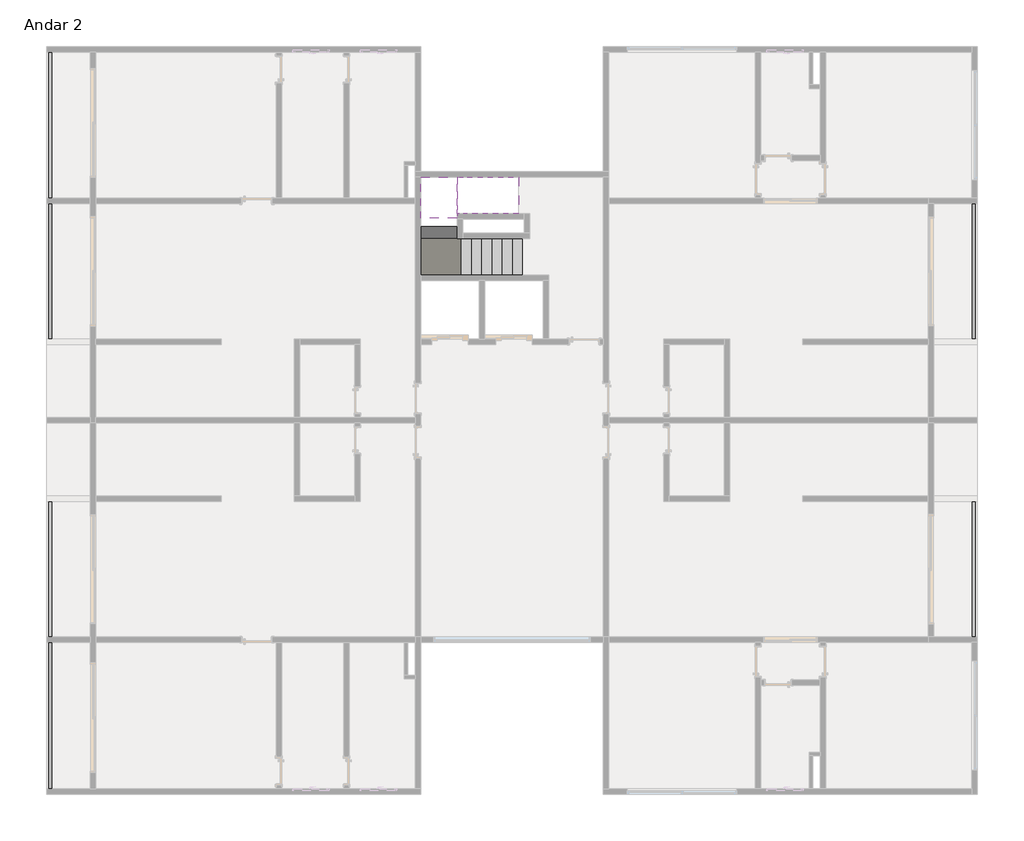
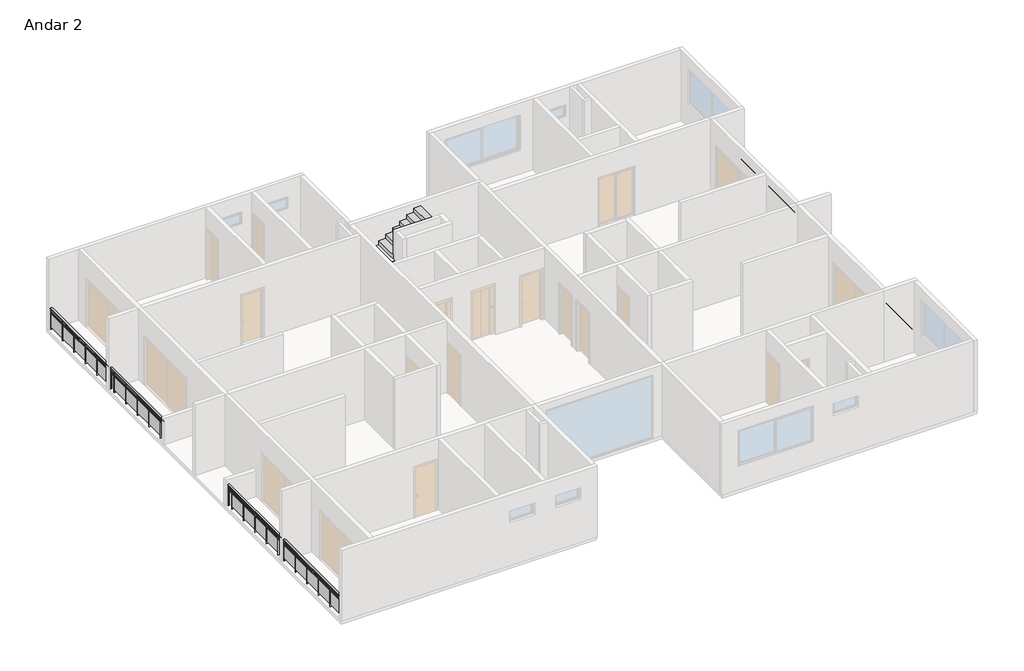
# One storey, part 3 of 3: 6 railings, 3 stair flights, 2 slabs.
"""IFC4 building model written with IfcOpenShell, lengths in millimetres."""

import ifcopenshell
import ifcopenshell.guid

model = None  # the IFC model being written
_history = None  # IfcOwnerHistory: only IFC2X3 demands one
_inside = {}  # id of a spatial element -> (the spatial element, [elements in it])
_under = {}  # id of a project, library or spatial element -> (it, [spatial elements below it])
_declared = {}  # id of a project -> (the project, [libraries it declares])
_typed = {}  # id of a type object -> (the type object, [elements of that type])
_made_of = {}  # id of a material, layer set ... -> (it, [elements and type objects made of it])


def new_model(schema):
    """Start an empty IFC model of exactly this schema.

    Asked for "IFC4X3", IfcOpenShell would pick the latest addendum, in which some entities
    have other attributes; the version numbers below select the first issue.
    IFC2X3 requires an IfcOwnerHistory on every rooted entity: one is made here for all.
    """
    global model, _history
    if schema == "IFC4X3":
        model = ifcopenshell.file(schema_version=(4, 3, 0, 0))
    else:
        model = ifcopenshell.file(schema=schema)
    _inside.clear()
    _under.clear()
    _declared.clear()
    _typed.clear()
    _made_of.clear()
    _history = None
    if model.schema == "IFC2X3":
        org = make("IfcOrganization", Name="unknown")
        user = make(
            "IfcPersonAndOrganization",
            ThePerson=make("IfcPerson", FamilyName="unknown"),
            TheOrganization=org,
        )
        app = make(
            "IfcApplication",
            ApplicationDeveloper=org,
            Version="unknown",
            ApplicationFullName="unknown",
            ApplicationIdentifier="unknown",
        )
        _history = make(
            "IfcOwnerHistory",
            OwningUser=user,
            OwningApplication=app,
            ChangeAction="ADDED",
            CreationDate=0,
        )
    return model


def make(cls, **values):
    """One entity of the class cls with the attributes given. An attribute that is None is left unset."""
    return model.create_entity(
        cls, **{name: value for name, value in values.items() if value is not None}
    )


def rooted(cls, **values):
    """An entity with a GlobalId (a new one), such as an element, a storey or a relation."""
    return make(cls, GlobalId=ifcopenshell.guid.new(), OwnerHistory=_history, **values)


def si_unit(unit_type, name, prefix=None):
    """IfcSIUnit, for example si_unit("LENGTHUNIT", "METRE", prefix="MILLI")."""
    return make("IfcSIUnit", UnitType=unit_type, Prefix=prefix, Name=name)


def assignment(units):
    """IfcUnitAssignment: the units of a project."""
    return None if units is None else make("IfcUnitAssignment", Units=units)


def point(xyz):
    """IfcCartesianPoint."""
    return None if xyz is None else make("IfcCartesianPoint", Coordinates=xyz)


def direction(xyz):
    """IfcDirection."""
    return None if xyz is None else make("IfcDirection", DirectionRatios=xyz)


def frame(location, z_axis=None, x_axis=None):
    """IfcAxis2Placement3D, a coordinate frame: its origin and axes. An axis left out is left unset."""
    return make(
        "IfcAxis2Placement3D",
        Location=point(location),
        Axis=direction(z_axis),
        RefDirection=direction(x_axis),
    )


def origin():
    """The frame at (0, 0, 0) with its axes left unset."""
    return frame((0.0, 0.0, 0.0))


def place(relative_to, where):
    """IfcLocalPlacement: puts the frame where relative to a parent placement (None: the world)."""
    return make(
        "IfcLocalPlacement", PlacementRelTo=relative_to, RelativePlacement=where
    )


def context(
    kind, dimensions, precision=None, world=None, true_north=None, identifier=None
):
    """IfcGeometricRepresentationContext, for example the 3D "Model" context."""
    return make(
        "IfcGeometricRepresentationContext",
        ContextIdentifier=identifier,
        ContextType=kind,
        CoordinateSpaceDimension=dimensions,
        Precision=precision,
        WorldCoordinateSystem=world,
        TrueNorth=true_north,
    )


def project(units=None, contexts=None):
    """IfcProject with its units and contexts."""
    return rooted(
        "IfcProject",
        Name="project",
        RepresentationContexts=contexts,
        UnitsInContext=assignment(units),
    )


def spatial(cls, under=None, at=None, **own):
    """A site, building, storey or space (cls), placed at a placement, below another one or the project."""
    s = rooted(cls, ObjectPlacement=at, **own)
    if under is not None:
        _under.setdefault(under.id(), (under, []))[1].append(s)
    return s


def polyline(points):
    """IfcPolyline through the points."""
    return make("IfcPolyline", Points=[point(p) for p in points])


def ellipse_curve(where, semi_axis1, semi_axis2):
    """IfcEllipse in the frame where."""
    return make(
        "IfcEllipse", Position=where, SemiAxis1=semi_axis1, SemiAxis2=semi_axis2
    )


def trimmed(basis, trim1, trim2, sense, master):
    """IfcTrimmedCurve: the piece of a basis curve between two trims."""
    return make(
        "IfcTrimmedCurve",
        BasisCurve=basis,
        Trim1=trim1,
        Trim2=trim2,
        SenseAgreement=sense,
        MasterRepresentation=master,
    )


def outline(outer, holes=None, kind="AREA"):
    """IfcArbitraryClosedProfileDef: a profile drawn as a closed curve; with holes, ...WithVoids."""
    if holes is None:
        return make("IfcArbitraryClosedProfileDef", ProfileType=kind, OuterCurve=outer)
    return make(
        "IfcArbitraryProfileDefWithVoids",
        ProfileType=kind,
        OuterCurve=outer,
        InnerCurves=holes,
    )


def extrude(swept, where, along, depth):
    """IfcExtrudedAreaSolid: the profile swept, set in the frame where, extruded along a direction by depth."""
    return make(
        "IfcExtrudedAreaSolid",
        SweptArea=swept,
        Position=where,
        ExtrudedDirection=direction(along),
        Depth=depth,
    )


def faces_of(points, faces, orient=None, outer=None):
    """IfcFace entities. A face is a list of loops; a loop is a list of indices into points, from 0.

    orient and outer hold one flag for each loop. By default every Orientation is true, the
    first loop of a face is its IfcFaceOuterBound and the others are IfcFaceBound.
    """
    made = []
    for i, loops in enumerate(faces):
        bounds = []
        for j, loop in enumerate(loops):
            is_outer = j == 0 if outer is None else outer[i][j]
            bounds.append(
                make(
                    "IfcFaceOuterBound" if is_outer else "IfcFaceBound",
                    Bound=make("IfcPolyLoop", Polygon=[points[k] for k in loop]),
                    Orientation=True if orient is None else orient[i][j],
                )
            )
        made.append(make("IfcFace", Bounds=bounds))
    return made


def faceted_brep(points, faces, orient=None, outer=None, voids=None):
    """IfcFacetedBrep: a solid bounded by flat faces; with voids (closed shells), ...WithVoids."""
    shared = [point(p) for p in points]
    hull = make("IfcClosedShell", CfsFaces=faces_of(shared, faces, orient, outer))
    if voids is None:
        return make("IfcFacetedBrep", Outer=hull)
    return make(
        "IfcFacetedBrepWithVoids",
        Outer=hull,
        Voids=[
            make(cls, CfsFaces=faces_of(shared, fs, o, b)) for cls, fs, o, b in voids
        ],
    )


def shape(context_of_items, identifier, shape_type, items):
    """IfcShapeRepresentation: the items that make up one representation, for example the "Body"."""
    return make(
        "IfcShapeRepresentation",
        ContextOfItems=context_of_items,
        RepresentationIdentifier=identifier,
        RepresentationType=shape_type,
        Items=items,
    )


def made_of(thing, what):
    """Note that an element or type object is made of a material, layer set ...; save() writes the relation."""
    if what is not None:
        _made_of.setdefault(what.id(), (what, []))[1].append(thing)
    return thing


def element(
    cls,
    number,
    at=None,
    inside=None,
    cuts=None,
    type_object=None,
    material=None,
    context=None,
    identifier="Body",
    shape_type=None,
    held_by="IfcProductDefinitionShape",
    body=None,
    shapes=None,
    **own,
):
    """One element of the class cls, such as IfcWall. Its Tag is "e" and its number.

    at: its placement. inside: the storey or other place that contains it. cuts: it is an
    opening in that element (IfcRelVoidsElement). A single representation is given by context,
    identifier, shape_type and body (its items); several are given by shapes. held_by: the class
    of the entity that holds the representations. save() writes the other relations.
    """
    e = rooted(cls, Tag="e%d" % number, ObjectPlacement=at, **own)
    if body is not None:
        shapes = [shape(context, identifier, shape_type, body)]
    if shapes is not None:
        e.Representation = make(held_by, Representations=shapes)
    if inside is not None:
        _inside.setdefault(inside.id(), (inside, []))[1].append(e)
    if cuts is not None:
        rooted(
            "IfcRelVoidsElement", RelatingBuildingElement=cuts, RelatedOpeningElement=e
        )
    if type_object is not None:
        _typed.setdefault(type_object.id(), (type_object, []))[1].append(e)
    return made_of(e, material)


def aggregate(whole, parts):
    """IfcRelAggregates: a whole, such as a stair, and the parts it consists of."""
    return rooted("IfcRelAggregates", RelatingObject=whole, RelatedObjects=parts)


def save(model, path):
    """Write the relations noted so far, then the file.

    IfcRelAggregates (storeys below a building ...), IfcRelContainedInSpatialStructure (elements
    in a storey), IfcRelDefinesByType, IfcRelAssociatesMaterial and IfcRelDeclares: one each for
    every whole, place, type object, material and project.
    """
    for whole, parts in _under.values():
        aggregate(whole, parts)
    for where, things in _inside.values():
        rooted(
            "IfcRelContainedInSpatialStructure",
            RelatedElements=things,
            RelatingStructure=where,
        )
    for kind, things in _typed.values():
        rooted("IfcRelDefinesByType", RelatedObjects=things, RelatingType=kind)
    for what, things in _made_of.values():
        rooted("IfcRelAssociatesMaterial", RelatedObjects=things, RelatingMaterial=what)
    for by, libraries in _declared.values():
        rooted("IfcRelDeclares", RelatingContext=by, RelatedDefinitions=libraries)
    model.write(path)


def plane_surface(at):
    """IfcPlane: the flat surface through the origin of the frame at, square to its z axis."""
    return make("IfcPlane", Position=at)


def extruded_surface(curve, direction_of_extrusion, depth):
    """IfcSurfaceOfLinearExtrusion: the curve pushed along a direction by depth."""
    return make(
        "IfcSurfaceOfLinearExtrusion",
        SweptCurve=make("IfcArbitraryOpenProfileDef", ProfileType="CURVE", Curve=curve),
        ExtrudedDirection=direction(direction_of_extrusion),
        Depth=depth,
    )


def advanced_brep(points, edges, surfaces, faces):
    """IfcAdvancedBrep: a solid bounded by faces that lie on surfaces and meet in shared edges.

    An edge is (start, end): straight between two places in points (the first is 0);
    or (start, end, curve); or (start, end, curve, False) where it runs against its curve.
    A face is (place in surfaces, loops), or (place, loops, False) where it looks against
    its surface's normal. A loop lists edges by number (the first is 1), with a minus sign
    where the edge is run from its end to its start. The first loop is the outer one.
    """
    corners = [point(p) for p in points]
    vertices = [make("IfcVertexPoint", VertexGeometry=c) for c in corners]
    made = []
    for start, end, *more in edges:
        made.append(
            make(
                "IfcEdgeCurve",
                EdgeStart=vertices[start],
                EdgeEnd=vertices[end],
                EdgeGeometry=more[0] if more else make("IfcPolyline", Points=[corners[start], corners[end]]),
                SameSense=more[1] if len(more) > 1 else True,
            )
        )
    hull = []
    for where, loops, *sense in faces:
        bounds = []
        for j, loop in enumerate(loops):
            ring = [make("IfcOrientedEdge", EdgeElement=made[abs(k) - 1], Orientation=k > 0) for k in loop]
            bounds.append(
                make(
                    "IfcFaceOuterBound" if j == 0 else "IfcFaceBound",
                    Bound=make("IfcEdgeLoop", EdgeList=ring),
                    Orientation=True,
                )
            )
        hull.append(make("IfcAdvancedFace", Bounds=bounds, FaceSurface=surfaces[where], SameSense=sense[0] if sense else True))
    return make("IfcAdvancedBrep", Outer=make("IfcClosedShell", CfsFaces=hull))


model = new_model("IFC4")

# Units and contexts
model_context = context("Model", 3, world=origin())
ifc_project = project(units=[si_unit("LENGTHUNIT", "METRE", prefix="MILLI")], contexts=[model_context])

# Site, building, storey
site = spatial("IfcSite", under=ifc_project)
building = spatial("IfcBuilding", under=site)
storey = spatial("IfcBuildingStorey", under=building, Name="Andar 2", Elevation=6150.0)

# Railings
placement = place(None, origin())
element("IfcRailing", 1, ObjectType="Painel de vidro - Preenchimento inferior", at=placement, inside=storey, context=model_context, shape_type="SolidModel", body=[
    advanced_brep(
    [(6139.3907652, 18425.0, 7050.0), (6059.3907652, 18425.0, 7050.0), (6139.3907652, 14725.0, 7050.0), (6059.3907652, 14725.0, 7050.0)],
    [
        (0, 1, ellipse_curve(frame((6099.3907652, 18425.0, 7050.0), z_axis=(0.0, 1.0, 0.0), x_axis=(-1.0, 0.0, 0.0)), 40.0, 30.0)),
        (1, 0, ellipse_curve(frame((6099.3907652, 18425.0, 7050.0), z_axis=(0.0, 1.0, 0.0), x_axis=(-1.0, 0.0, 0.0)), 40.0, 30.0)),
        (2, 3, ellipse_curve(frame((6099.3907652, 14725.0, 7050.0), z_axis=(0.0, -1.0, 0.0), x_axis=(-1.0, 0.0, 0.0)), 40.0, 30.0)),
        (3, 2, ellipse_curve(frame((6099.3907652, 14725.0, 7050.0), z_axis=(0.0, -1.0, 0.0), x_axis=(-1.0, 0.0, 0.0)), 40.0, 30.0)),
        (0, 2),
        (3, 1),
    ],
    [
        plane_surface(frame((6099.3907652, 18425.0, 7050.0), z_axis=(0.0, 1.0, 0.0), x_axis=(0.0, 0.0, -1.0))),
        plane_surface(frame((6099.3907652, 14725.0, 7050.0), z_axis=(0.0, -1.0, 0.0), x_axis=(0.0, 0.0, -1.0))),
        extruded_surface(trimmed(ellipse_curve(frame((6099.3907652, 14725.0, 7050.0), z_axis=(0.0, 1.0, 0.0), x_axis=(-1.0, 0.0, 0.0)), 40.0, 30.0), [point((6139.3907652, 14725.0, 7050.0))], [point((6059.3907652, 14725.0, 7050.0))], True, "CARTESIAN"), (0.0, 3700.0, 0.0), 3700.0),
        extruded_surface(trimmed(ellipse_curve(frame((6099.3907652, 14725.0, 7050.0), z_axis=(0.0, 1.0, 0.0), x_axis=(-1.0, 0.0, 0.0)), 40.0, 30.0), [point((6059.3907652, 14725.0, 7050.0))], [point((6139.3907652, 14725.0, 7050.0))], True, "CARTESIAN"), (0.0, 3700.0, 0.0), 3700.0),
    ],
    [
        (0, [[1, 2]]),
        (1, [[3, 4]]),
        (2, [[-1, 5, -4, 6]]),
        (3, [[-2, -6, -3, -5]]),
    ],
),
    extrude(outline(polyline([(6090.0, 18425.0), (6110.0, 18425.0), (6110.0, 14725.0), (6090.0, 14725.0), (6090.0, 18425.0)])), frame((0.0, 0.0, 6930.0), z_axis=(0.0, 0.0, 1.0), x_axis=(1.0, 0.0, 0.0)), (0.0, 0.0, 1.0), 20.0),
    extrude(outline(polyline([(6090.0, 18425.0), (6110.0, 18425.0), (6110.0, 14725.0), (6090.0, 14725.0), (6090.0, 18425.0)])), frame((0.0, 0.0, 6830.0), z_axis=(0.0, 0.0, 1.0), x_axis=(1.0, 0.0, 0.0)), (0.0, 0.0, 1.0), 20.0),
    extrude(outline(polyline([(6125.0, 14981.0), (6125.0, 14969.0), (6075.0, 14969.0), (6075.0, 14981.0), (6125.0, 14981.0)])), frame((0.0, 0.0, 6150.0), z_axis=(0.0, 0.0, 1.0), x_axis=(1.0, 0.0, 0.0)), (0.0, 0.0, 1.0), 869.8465326),
    extrude(outline(polyline([(6098.2751899, 15775.0), (6098.2751899, 14975.0), (6093.2751899, 14975.0), (6093.2751899, 15775.0), (6098.2751899, 15775.0)])), frame((0.0, 0.0, 6250.0), z_axis=(0.0, 0.0, 1.0), x_axis=(1.0, 0.0, 0.0)), (0.0, 0.0, 1.0), 580.0),
    extrude(outline(polyline([(6125.0, 15781.0), (6125.0, 15769.0), (6075.0, 15769.0), (6075.0, 15781.0), (6125.0, 15781.0)])), frame((0.0, 0.0, 6150.0), z_axis=(0.0, 0.0, 1.0), x_axis=(1.0, 0.0, 0.0)), (0.0, 0.0, 1.0), 869.8465326),
    extrude(outline(polyline([(6098.2751899, 16575.0), (6098.2751899, 15775.0), (6093.2751899, 15775.0), (6093.2751899, 16575.0), (6098.2751899, 16575.0)])), frame((0.0, 0.0, 6250.0), z_axis=(0.0, 0.0, 1.0), x_axis=(1.0, 0.0, 0.0)), (0.0, 0.0, 1.0), 580.0),
    extrude(outline(polyline([(6125.0, 16581.0), (6125.0, 16569.0), (6075.0, 16569.0), (6075.0, 16581.0), (6125.0, 16581.0)])), frame((0.0, 0.0, 6150.0), z_axis=(0.0, 0.0, 1.0), x_axis=(1.0, 0.0, 0.0)), (0.0, 0.0, 1.0), 869.8465326),
    extrude(outline(polyline([(6098.2751899, 17375.0), (6098.2751899, 16575.0), (6093.2751899, 16575.0), (6093.2751899, 17375.0), (6098.2751899, 17375.0)])), frame((0.0, 0.0, 6250.0), z_axis=(0.0, 0.0, 1.0), x_axis=(1.0, 0.0, 0.0)), (0.0, 0.0, 1.0), 580.0),
    extrude(outline(polyline([(6125.0, 17381.0), (6125.0, 17369.0), (6075.0, 17369.0), (6075.0, 17381.0), (6125.0, 17381.0)])), frame((0.0, 0.0, 6150.0), z_axis=(0.0, 0.0, 1.0), x_axis=(1.0, 0.0, 0.0)), (0.0, 0.0, 1.0), 869.8465326),
    extrude(outline(polyline([(6098.2751899, 18175.0), (6098.2751899, 17375.0), (6093.2751899, 17375.0), (6093.2751899, 18175.0), (6098.2751899, 18175.0)])), frame((0.0, 0.0, 6250.0), z_axis=(0.0, 0.0, 1.0), x_axis=(1.0, 0.0, 0.0)), (0.0, 0.0, 1.0), 580.0),
    extrude(outline(polyline([(6125.0, 18181.0), (6125.0, 18169.0), (6075.0, 18169.0), (6075.0, 18181.0), (6125.0, 18181.0)])), frame((0.0, 0.0, 6150.0), z_axis=(0.0, 0.0, 1.0), x_axis=(1.0, 0.0, 0.0)), (0.0, 0.0, 1.0), 869.8465326),
    extrude(outline(polyline([(6125.0, 14733.0), (6125.0, 14721.0), (6075.0, 14721.0), (6075.0, 14733.0), (6125.0, 14733.0)])), frame((0.0, 0.0, 6150.0), z_axis=(0.0, 0.0, 1.0), x_axis=(1.0, 0.0, 0.0)), (0.0, 0.0, 1.0), 869.8465326),
    extrude(outline(polyline([(6125.0, 18429.0), (6125.0, 18417.0), (6075.0, 18417.0), (6075.0, 18429.0), (6125.0, 18429.0)])), frame((0.0, 0.0, 6150.0), z_axis=(0.0, 0.0, 1.0), x_axis=(1.0, 0.0, 0.0)), (0.0, 0.0, 1.0), 869.8465326),
])
element("IfcRailing", 2, ObjectType="Painel de vidro - Preenchimento inferior", at=placement, inside=storey, context=model_context, shape_type="SolidModel", body=[
    advanced_brep(
    [(6059.3907652, 18575.0, 7050.0), (6139.3907652, 18575.0, 7050.0), (6059.3907652, 22575.0, 7050.0), (6139.3907652, 22575.0, 7050.0)],
    [
        (0, 1, ellipse_curve(frame((6099.3907652, 18575.0, 7050.0), z_axis=(0.0, -1.0, 0.0), x_axis=(1.0, 0.0, 0.0)), 40.0, 30.0)),
        (1, 0, ellipse_curve(frame((6099.3907652, 18575.0, 7050.0), z_axis=(0.0, -1.0, 0.0), x_axis=(1.0, 0.0, 0.0)), 40.0, 30.0)),
        (2, 3, ellipse_curve(frame((6099.3907652, 22575.0, 7050.0), z_axis=(0.0, 1.0, 0.0), x_axis=(1.0, 0.0, 0.0)), 40.0, 30.0)),
        (3, 2, ellipse_curve(frame((6099.3907652, 22575.0, 7050.0), z_axis=(0.0, 1.0, 0.0), x_axis=(1.0, 0.0, 0.0)), 40.0, 30.0)),
        (0, 2),
        (3, 1),
    ],
    [
        plane_surface(frame((6099.3907652, 18575.0, 7050.0), z_axis=(0.0, -1.0, 0.0), x_axis=(0.0, 0.0, 1.0))),
        plane_surface(frame((6099.3907652, 22575.0, 7050.0), z_axis=(0.0, 1.0, 0.0), x_axis=(0.0, 0.0, 1.0))),
        extruded_surface(trimmed(ellipse_curve(frame((6099.3907652, 22575.0, 7050.0), z_axis=(0.0, -1.0, 0.0), x_axis=(1.0, 0.0, 0.0)), 40.0, 30.0), [point((6059.3907652, 22575.0, 7050.0))], [point((6139.3907652, 22575.0, 7050.0))], True, "CARTESIAN"), (0.0, -4000.0, 0.0), 4000.0),
        extruded_surface(trimmed(ellipse_curve(frame((6099.3907652, 22575.0, 7050.0), z_axis=(0.0, -1.0, 0.0), x_axis=(1.0, 0.0, 0.0)), 40.0, 30.0), [point((6139.3907652, 22575.0, 7050.0))], [point((6059.3907652, 22575.0, 7050.0))], True, "CARTESIAN"), (0.0, -4000.0, 0.0), 4000.0),
    ],
    [
        (0, [[1, 2]]),
        (1, [[3, 4]]),
        (2, [[-1, 5, -4, 6]]),
        (3, [[-2, -6, -3, -5]]),
    ],
),
    extrude(outline(polyline([(6110.0, 18575.0), (6090.0, 18575.0), (6090.0, 22575.0), (6110.0, 22575.0), (6110.0, 18575.0)])), frame((0.0, 0.0, 6930.0), z_axis=(0.0, 0.0, 1.0), x_axis=(1.0, 0.0, 0.0)), (0.0, 0.0, 1.0), 20.0),
    extrude(outline(polyline([(6110.0, 18575.0), (6090.0, 18575.0), (6090.0, 22575.0), (6110.0, 22575.0), (6110.0, 18575.0)])), frame((0.0, 0.0, 6830.0), z_axis=(0.0, 0.0, 1.0), x_axis=(1.0, 0.0, 0.0)), (0.0, 0.0, 1.0), 20.0),
    extrude(outline(polyline([(6098.2751899, 21775.0), (6093.2751899, 21775.0), (6093.2751899, 22575.0), (6098.2751899, 22575.0), (6098.2751899, 21775.0)])), frame((0.0, 0.0, 6250.0), z_axis=(0.0, 0.0, 1.0), x_axis=(1.0, 0.0, 0.0)), (0.0, 0.0, 1.0), 580.0),
    extrude(outline(polyline([(6125.0, 21769.0), (6075.0, 21769.0), (6075.0, 21781.0), (6125.0, 21781.0), (6125.0, 21769.0)])), frame((0.0, 0.0, 6150.0), z_axis=(0.0, 0.0, 1.0), x_axis=(1.0, 0.0, 0.0)), (0.0, 0.0, 1.0), 869.8465326),
    extrude(outline(polyline([(6098.2751899, 20975.0), (6093.2751899, 20975.0), (6093.2751899, 21775.0), (6098.2751899, 21775.0), (6098.2751899, 20975.0)])), frame((0.0, 0.0, 6250.0), z_axis=(0.0, 0.0, 1.0), x_axis=(1.0, 0.0, 0.0)), (0.0, 0.0, 1.0), 580.0),
    extrude(outline(polyline([(6125.0, 20969.0), (6075.0, 20969.0), (6075.0, 20981.0), (6125.0, 20981.0), (6125.0, 20969.0)])), frame((0.0, 0.0, 6150.0), z_axis=(0.0, 0.0, 1.0), x_axis=(1.0, 0.0, 0.0)), (0.0, 0.0, 1.0), 869.8465326),
    extrude(outline(polyline([(6098.2751899, 20175.0), (6093.2751899, 20175.0), (6093.2751899, 20975.0), (6098.2751899, 20975.0), (6098.2751899, 20175.0)])), frame((0.0, 0.0, 6250.0), z_axis=(0.0, 0.0, 1.0), x_axis=(1.0, 0.0, 0.0)), (0.0, 0.0, 1.0), 580.0),
    extrude(outline(polyline([(6125.0, 20169.0), (6075.0, 20169.0), (6075.0, 20181.0), (6125.0, 20181.0), (6125.0, 20169.0)])), frame((0.0, 0.0, 6150.0), z_axis=(0.0, 0.0, 1.0), x_axis=(1.0, 0.0, 0.0)), (0.0, 0.0, 1.0), 869.8465326),
    extrude(outline(polyline([(6098.2751899, 19375.0), (6093.2751899, 19375.0), (6093.2751899, 20175.0), (6098.2751899, 20175.0), (6098.2751899, 19375.0)])), frame((0.0, 0.0, 6250.0), z_axis=(0.0, 0.0, 1.0), x_axis=(1.0, 0.0, 0.0)), (0.0, 0.0, 1.0), 580.0),
    extrude(outline(polyline([(6125.0, 19369.0), (6075.0, 19369.0), (6075.0, 19381.0), (6125.0, 19381.0), (6125.0, 19369.0)])), frame((0.0, 0.0, 6150.0), z_axis=(0.0, 0.0, 1.0), x_axis=(1.0, 0.0, 0.0)), (0.0, 0.0, 1.0), 869.8465326),
    extrude(outline(polyline([(6098.2751899, 18575.0), (6093.2751899, 18575.0), (6093.2751899, 19375.0), (6098.2751899, 19375.0), (6098.2751899, 18575.0)])), frame((0.0, 0.0, 6250.0), z_axis=(0.0, 0.0, 1.0), x_axis=(1.0, 0.0, 0.0)), (0.0, 0.0, 1.0), 580.0),
    extrude(outline(polyline([(6125.0, 22567.0), (6075.0, 22567.0), (6075.0, 22579.0), (6125.0, 22579.0), (6125.0, 22567.0)])), frame((0.0, 0.0, 6150.0), z_axis=(0.0, 0.0, 1.0), x_axis=(1.0, 0.0, 0.0)), (0.0, 0.0, 1.0), 869.8465326),
    extrude(outline(polyline([(6125.0, 18571.0), (6075.0, 18571.0), (6075.0, 18583.0), (6125.0, 18583.0), (6125.0, 18571.0)])), frame((0.0, 0.0, 6150.0), z_axis=(0.0, 0.0, 1.0), x_axis=(1.0, 0.0, 0.0)), (0.0, 0.0, 1.0), 869.8465326),
])
element("IfcRailing", 3, ObjectType="Painel de vidro - Preenchimento inferior", at=placement, inside=storey, context=model_context, shape_type="SolidModel", body=[
    advanced_brep(
    [(6059.3907652, 6575.0, 7050.0), (6139.3907652, 6575.0, 7050.0), (6059.3907652, 10275.0, 7050.0), (6139.3907652, 10275.0, 7050.0)],
    [
        (0, 1, ellipse_curve(frame((6099.3907652, 6575.0, 7050.0), z_axis=(0.0, -1.0, 0.0), x_axis=(1.0, 0.0, 0.0)), 40.0, 30.0)),
        (1, 0, ellipse_curve(frame((6099.3907652, 6575.0, 7050.0), z_axis=(0.0, -1.0, 0.0), x_axis=(1.0, 0.0, 0.0)), 40.0, 30.0)),
        (2, 3, ellipse_curve(frame((6099.3907652, 10275.0, 7050.0), z_axis=(0.0, 1.0, 0.0), x_axis=(1.0, 0.0, 0.0)), 40.0, 30.0)),
        (3, 2, ellipse_curve(frame((6099.3907652, 10275.0, 7050.0), z_axis=(0.0, 1.0, 0.0), x_axis=(1.0, 0.0, 0.0)), 40.0, 30.0)),
        (0, 2),
        (3, 1),
    ],
    [
        plane_surface(frame((6099.3907652, 6575.0, 7050.0), z_axis=(0.0, -1.0, 0.0), x_axis=(0.0, 0.0, 1.0))),
        plane_surface(frame((6099.3907652, 10275.0, 7050.0), z_axis=(0.0, 1.0, 0.0), x_axis=(0.0, 0.0, 1.0))),
        extruded_surface(trimmed(ellipse_curve(frame((6099.3907652, 10275.0, 7050.0), z_axis=(0.0, -1.0, 0.0), x_axis=(1.0, 0.0, 0.0)), 40.0, 30.0), [point((6059.3907652, 10275.0, 7050.0))], [point((6139.3907652, 10275.0, 7050.0))], True, "CARTESIAN"), (0.0, -3700.0, 0.0), 3700.0),
        extruded_surface(trimmed(ellipse_curve(frame((6099.3907652, 10275.0, 7050.0), z_axis=(0.0, -1.0, 0.0), x_axis=(1.0, 0.0, 0.0)), 40.0, 30.0), [point((6139.3907652, 10275.0, 7050.0))], [point((6059.3907652, 10275.0, 7050.0))], True, "CARTESIAN"), (0.0, -3700.0, 0.0), 3700.0),
    ],
    [
        (0, [[1, 2]]),
        (1, [[3, 4]]),
        (2, [[-1, 5, -4, 6]]),
        (3, [[-2, -6, -3, -5]]),
    ],
),
    extrude(outline(polyline([(6110.0, 6575.0), (6090.0, 6575.0), (6090.0, 10275.0), (6110.0, 10275.0), (6110.0, 6575.0)])), frame((0.0, 0.0, 6930.0), z_axis=(0.0, 0.0, 1.0), x_axis=(1.0, 0.0, 0.0)), (0.0, 0.0, 1.0), 20.0),
    extrude(outline(polyline([(6110.0, 6575.0), (6090.0, 6575.0), (6090.0, 10275.0), (6110.0, 10275.0), (6110.0, 6575.0)])), frame((0.0, 0.0, 6830.0), z_axis=(0.0, 0.0, 1.0), x_axis=(1.0, 0.0, 0.0)), (0.0, 0.0, 1.0), 20.0),
    extrude(outline(polyline([(6125.0, 10019.0), (6075.0, 10019.0), (6075.0, 10031.0), (6125.0, 10031.0), (6125.0, 10019.0)])), frame((0.0, 0.0, 6150.0), z_axis=(0.0, 0.0, 1.0), x_axis=(1.0, 0.0, 0.0)), (0.0, 0.0, 1.0), 869.8465326),
    extrude(outline(polyline([(6098.2751899, 9225.0), (6093.2751899, 9225.0), (6093.2751899, 10025.0), (6098.2751899, 10025.0), (6098.2751899, 9225.0)])), frame((0.0, 0.0, 6250.0), z_axis=(0.0, 0.0, 1.0), x_axis=(1.0, 0.0, 0.0)), (0.0, 0.0, 1.0), 580.0),
    extrude(outline(polyline([(6125.0, 9219.0), (6075.0, 9219.0), (6075.0, 9231.0), (6125.0, 9231.0), (6125.0, 9219.0)])), frame((0.0, 0.0, 6150.0), z_axis=(0.0, 0.0, 1.0), x_axis=(1.0, 0.0, 0.0)), (0.0, 0.0, 1.0), 869.8465326),
    extrude(outline(polyline([(6098.2751899, 8425.0), (6093.2751899, 8425.0), (6093.2751899, 9225.0), (6098.2751899, 9225.0), (6098.2751899, 8425.0)])), frame((0.0, 0.0, 6250.0), z_axis=(0.0, 0.0, 1.0), x_axis=(1.0, 0.0, 0.0)), (0.0, 0.0, 1.0), 580.0),
    extrude(outline(polyline([(6125.0, 8419.0), (6075.0, 8419.0), (6075.0, 8431.0), (6125.0, 8431.0), (6125.0, 8419.0)])), frame((0.0, 0.0, 6150.0), z_axis=(0.0, 0.0, 1.0), x_axis=(1.0, 0.0, 0.0)), (0.0, 0.0, 1.0), 869.8465326),
    extrude(outline(polyline([(6098.2751899, 7625.0), (6093.2751899, 7625.0), (6093.2751899, 8425.0), (6098.2751899, 8425.0), (6098.2751899, 7625.0)])), frame((0.0, 0.0, 6250.0), z_axis=(0.0, 0.0, 1.0), x_axis=(1.0, 0.0, 0.0)), (0.0, 0.0, 1.0), 580.0),
    extrude(outline(polyline([(6125.0, 7619.0), (6075.0, 7619.0), (6075.0, 7631.0), (6125.0, 7631.0), (6125.0, 7619.0)])), frame((0.0, 0.0, 6150.0), z_axis=(0.0, 0.0, 1.0), x_axis=(1.0, 0.0, 0.0)), (0.0, 0.0, 1.0), 869.8465326),
    extrude(outline(polyline([(6098.2751899, 6825.0), (6093.2751899, 6825.0), (6093.2751899, 7625.0), (6098.2751899, 7625.0), (6098.2751899, 6825.0)])), frame((0.0, 0.0, 6250.0), z_axis=(0.0, 0.0, 1.0), x_axis=(1.0, 0.0, 0.0)), (0.0, 0.0, 1.0), 580.0),
    extrude(outline(polyline([(6125.0, 6819.0), (6075.0, 6819.0), (6075.0, 6831.0), (6125.0, 6831.0), (6125.0, 6819.0)])), frame((0.0, 0.0, 6150.0), z_axis=(0.0, 0.0, 1.0), x_axis=(1.0, 0.0, 0.0)), (0.0, 0.0, 1.0), 869.8465326),
    extrude(outline(polyline([(6125.0, 10267.0), (6075.0, 10267.0), (6075.0, 10279.0), (6125.0, 10279.0), (6125.0, 10267.0)])), frame((0.0, 0.0, 6150.0), z_axis=(0.0, 0.0, 1.0), x_axis=(1.0, 0.0, 0.0)), (0.0, 0.0, 1.0), 869.8465326),
    extrude(outline(polyline([(6125.0, 6571.0), (6075.0, 6571.0), (6075.0, 6583.0), (6125.0, 6583.0), (6125.0, 6571.0)])), frame((0.0, 0.0, 6150.0), z_axis=(0.0, 0.0, 1.0), x_axis=(1.0, 0.0, 0.0)), (0.0, 0.0, 1.0), 869.8465326),
])
element("IfcRailing", 4, ObjectType="Painel de vidro - Preenchimento inferior", at=placement, inside=storey, context=model_context, shape_type="SolidModel", body=[
    advanced_brep(
    [(6139.3907652, 6425.0, 7050.0), (6059.3907652, 6425.0, 7050.0), (6139.3907652, 2425.0, 7050.0), (6059.3907652, 2425.0, 7050.0)],
    [
        (0, 1, ellipse_curve(frame((6099.3907652, 6425.0, 7050.0), z_axis=(0.0, 1.0, 0.0), x_axis=(-1.0, 0.0, 0.0)), 40.0, 30.0)),
        (1, 0, ellipse_curve(frame((6099.3907652, 6425.0, 7050.0), z_axis=(0.0, 1.0, 0.0), x_axis=(-1.0, 0.0, 0.0)), 40.0, 30.0)),
        (2, 3, ellipse_curve(frame((6099.3907652, 2425.0, 7050.0), z_axis=(0.0, -1.0, 0.0), x_axis=(-1.0, 0.0, 0.0)), 40.0, 30.0)),
        (3, 2, ellipse_curve(frame((6099.3907652, 2425.0, 7050.0), z_axis=(0.0, -1.0, 0.0), x_axis=(-1.0, 0.0, 0.0)), 40.0, 30.0)),
        (0, 2),
        (3, 1),
    ],
    [
        plane_surface(frame((6099.3907652, 6425.0, 7050.0), z_axis=(0.0, 1.0, 0.0), x_axis=(0.0, 0.0, -1.0))),
        plane_surface(frame((6099.3907652, 2425.0, 7050.0), z_axis=(0.0, -1.0, 0.0), x_axis=(0.0, 0.0, -1.0))),
        extruded_surface(trimmed(ellipse_curve(frame((6099.3907652, 2425.0, 7050.0), z_axis=(0.0, 1.0, 0.0), x_axis=(-1.0, 0.0, 0.0)), 40.0, 30.0), [point((6139.3907652, 2425.0, 7050.0))], [point((6059.3907652, 2425.0, 7050.0))], True, "CARTESIAN"), (0.0, 4000.0, 0.0), 4000.0),
        extruded_surface(trimmed(ellipse_curve(frame((6099.3907652, 2425.0, 7050.0), z_axis=(0.0, 1.0, 0.0), x_axis=(-1.0, 0.0, 0.0)), 40.0, 30.0), [point((6059.3907652, 2425.0, 7050.0))], [point((6139.3907652, 2425.0, 7050.0))], True, "CARTESIAN"), (0.0, 4000.0, 0.0), 4000.0),
    ],
    [
        (0, [[1, 2]]),
        (1, [[3, 4]]),
        (2, [[-1, 5, -4, 6]]),
        (3, [[-2, -6, -3, -5]]),
    ],
),
    extrude(outline(polyline([(6090.0, 6425.0), (6110.0, 6425.0), (6110.0, 2425.0), (6090.0, 2425.0), (6090.0, 6425.0)])), frame((0.0, 0.0, 6930.0), z_axis=(0.0, 0.0, 1.0), x_axis=(1.0, 0.0, 0.0)), (0.0, 0.0, 1.0), 20.0),
    extrude(outline(polyline([(6090.0, 6425.0), (6110.0, 6425.0), (6110.0, 2425.0), (6090.0, 2425.0), (6090.0, 6425.0)])), frame((0.0, 0.0, 6830.0), z_axis=(0.0, 0.0, 1.0), x_axis=(1.0, 0.0, 0.0)), (0.0, 0.0, 1.0), 20.0),
    extrude(outline(polyline([(6098.2751899, 3225.0), (6098.2751899, 2425.0), (6093.2751899, 2425.0), (6093.2751899, 3225.0), (6098.2751899, 3225.0)])), frame((0.0, 0.0, 6250.0), z_axis=(0.0, 0.0, 1.0), x_axis=(1.0, 0.0, 0.0)), (0.0, 0.0, 1.0), 580.0),
    extrude(outline(polyline([(6125.0, 3231.0), (6125.0, 3219.0), (6075.0, 3219.0), (6075.0, 3231.0), (6125.0, 3231.0)])), frame((0.0, 0.0, 6150.0), z_axis=(0.0, 0.0, 1.0), x_axis=(1.0, 0.0, 0.0)), (0.0, 0.0, 1.0), 869.8465326),
    extrude(outline(polyline([(6098.2751899, 4025.0), (6098.2751899, 3225.0), (6093.2751899, 3225.0), (6093.2751899, 4025.0), (6098.2751899, 4025.0)])), frame((0.0, 0.0, 6250.0), z_axis=(0.0, 0.0, 1.0), x_axis=(1.0, 0.0, 0.0)), (0.0, 0.0, 1.0), 580.0),
    extrude(outline(polyline([(6125.0, 4031.0), (6125.0, 4019.0), (6075.0, 4019.0), (6075.0, 4031.0), (6125.0, 4031.0)])), frame((0.0, 0.0, 6150.0), z_axis=(0.0, 0.0, 1.0), x_axis=(1.0, 0.0, 0.0)), (0.0, 0.0, 1.0), 869.8465326),
    extrude(outline(polyline([(6098.2751899, 4825.0), (6098.2751899, 4025.0), (6093.2751899, 4025.0), (6093.2751899, 4825.0), (6098.2751899, 4825.0)])), frame((0.0, 0.0, 6250.0), z_axis=(0.0, 0.0, 1.0), x_axis=(1.0, 0.0, 0.0)), (0.0, 0.0, 1.0), 580.0),
    extrude(outline(polyline([(6125.0, 4831.0), (6125.0, 4819.0), (6075.0, 4819.0), (6075.0, 4831.0), (6125.0, 4831.0)])), frame((0.0, 0.0, 6150.0), z_axis=(0.0, 0.0, 1.0), x_axis=(1.0, 0.0, 0.0)), (0.0, 0.0, 1.0), 869.8465326),
    extrude(outline(polyline([(6098.2751899, 5625.0), (6098.2751899, 4825.0), (6093.2751899, 4825.0), (6093.2751899, 5625.0), (6098.2751899, 5625.0)])), frame((0.0, 0.0, 6250.0), z_axis=(0.0, 0.0, 1.0), x_axis=(1.0, 0.0, 0.0)), (0.0, 0.0, 1.0), 580.0),
    extrude(outline(polyline([(6125.0, 5631.0), (6125.0, 5619.0), (6075.0, 5619.0), (6075.0, 5631.0), (6125.0, 5631.0)])), frame((0.0, 0.0, 6150.0), z_axis=(0.0, 0.0, 1.0), x_axis=(1.0, 0.0, 0.0)), (0.0, 0.0, 1.0), 869.8465326),
    extrude(outline(polyline([(6098.2751899, 6425.0), (6098.2751899, 5625.0), (6093.2751899, 5625.0), (6093.2751899, 6425.0), (6098.2751899, 6425.0)])), frame((0.0, 0.0, 6250.0), z_axis=(0.0, 0.0, 1.0), x_axis=(1.0, 0.0, 0.0)), (0.0, 0.0, 1.0), 580.0),
    extrude(outline(polyline([(6125.0, 2433.0), (6125.0, 2421.0), (6075.0, 2421.0), (6075.0, 2433.0), (6125.0, 2433.0)])), frame((0.0, 0.0, 6150.0), z_axis=(0.0, 0.0, 1.0), x_axis=(1.0, 0.0, 0.0)), (0.0, 0.0, 1.0), 869.8465326),
    extrude(outline(polyline([(6125.0, 6429.0), (6125.0, 6417.0), (6075.0, 6417.0), (6075.0, 6429.0), (6125.0, 6429.0)])), frame((0.0, 0.0, 6150.0), z_axis=(0.0, 0.0, 1.0), x_axis=(1.0, 0.0, 0.0)), (0.0, 0.0, 1.0), 869.8465326),
])
element("IfcRailing", 5, ObjectType="Painel de vidro - Preenchimento inferior", at=placement, inside=storey, context=model_context, shape_type="SolidModel", body=[
    advanced_brep(
    [(31389.3907652, 18425.0, 7050.0), (31309.3907652, 18425.0, 7050.0), (31389.3907652, 14725.0, 7050.0), (31309.3907652, 14725.0, 7050.0)],
    [
        (0, 1, ellipse_curve(frame((31349.3907652, 18425.0, 7050.0), z_axis=(0.0, 1.0, 0.0), x_axis=(-1.0, 0.0, 0.0)), 40.0, 30.0)),
        (1, 0, ellipse_curve(frame((31349.3907652, 18425.0, 7050.0), z_axis=(0.0, 1.0, 0.0), x_axis=(-1.0, 0.0, 0.0)), 40.0, 30.0)),
        (2, 3, ellipse_curve(frame((31349.3907652, 14725.0, 7050.0), z_axis=(0.0, -1.0, 0.0), x_axis=(-1.0, 0.0, 0.0)), 40.0, 30.0)),
        (3, 2, ellipse_curve(frame((31349.3907652, 14725.0, 7050.0), z_axis=(0.0, -1.0, 0.0), x_axis=(-1.0, 0.0, 0.0)), 40.0, 30.0)),
        (0, 2),
        (3, 1),
    ],
    [
        plane_surface(frame((31349.3907652, 18425.0, 7050.0), z_axis=(0.0, 1.0, 0.0), x_axis=(0.0, 0.0, -1.0))),
        plane_surface(frame((31349.3907652, 14725.0, 7050.0), z_axis=(0.0, -1.0, 0.0), x_axis=(0.0, 0.0, -1.0))),
        extruded_surface(trimmed(ellipse_curve(frame((31349.3907652, 14725.0, 7050.0), z_axis=(0.0, 1.0, 0.0), x_axis=(-1.0, 0.0, 0.0)), 40.0, 30.0), [point((31389.3907652, 14725.0, 7050.0))], [point((31309.3907652, 14725.0, 7050.0))], True, "CARTESIAN"), (0.0, 3700.0, 0.0), 3700.0),
        extruded_surface(trimmed(ellipse_curve(frame((31349.3907652, 14725.0, 7050.0), z_axis=(0.0, 1.0, 0.0), x_axis=(-1.0, 0.0, 0.0)), 40.0, 30.0), [point((31309.3907652, 14725.0, 7050.0))], [point((31389.3907652, 14725.0, 7050.0))], True, "CARTESIAN"), (0.0, 3700.0, 0.0), 3700.0),
    ],
    [
        (0, [[1, 2]]),
        (1, [[3, 4]]),
        (2, [[-1, 5, -4, 6]]),
        (3, [[-2, -6, -3, -5]]),
    ],
),
    extrude(outline(polyline([(31340.0, 18425.0), (31360.0, 18425.0), (31360.0, 14725.0), (31340.0, 14725.0), (31340.0, 18425.0)])), frame((0.0, 0.0, 6930.0), z_axis=(0.0, 0.0, 1.0), x_axis=(1.0, 0.0, 0.0)), (0.0, 0.0, 1.0), 20.0),
    extrude(outline(polyline([(31340.0, 18425.0), (31360.0, 18425.0), (31360.0, 14725.0), (31340.0, 14725.0), (31340.0, 18425.0)])), frame((0.0, 0.0, 6830.0), z_axis=(0.0, 0.0, 1.0), x_axis=(1.0, 0.0, 0.0)), (0.0, 0.0, 1.0), 20.0),
    extrude(outline(polyline([(31375.0, 14981.0), (31375.0, 14969.0), (31325.0, 14969.0), (31325.0, 14981.0), (31375.0, 14981.0)])), frame((0.0, 0.0, 6150.0), z_axis=(0.0, 0.0, 1.0), x_axis=(1.0, 0.0, 0.0)), (0.0, 0.0, 1.0), 869.8465326),
    extrude(outline(polyline([(31348.2751899, 15775.0), (31348.2751899, 14975.0), (31343.2751899, 14975.0), (31343.2751899, 15775.0), (31348.2751899, 15775.0)])), frame((0.0, 0.0, 6250.0), z_axis=(0.0, 0.0, 1.0), x_axis=(1.0, 0.0, 0.0)), (0.0, 0.0, 1.0), 580.0),
    extrude(outline(polyline([(31375.0, 15781.0), (31375.0, 15769.0), (31325.0, 15769.0), (31325.0, 15781.0), (31375.0, 15781.0)])), frame((0.0, 0.0, 6150.0), z_axis=(0.0, 0.0, 1.0), x_axis=(1.0, 0.0, 0.0)), (0.0, 0.0, 1.0), 869.8465326),
    extrude(outline(polyline([(31348.2751899, 16575.0), (31348.2751899, 15775.0), (31343.2751899, 15775.0), (31343.2751899, 16575.0), (31348.2751899, 16575.0)])), frame((0.0, 0.0, 6250.0), z_axis=(0.0, 0.0, 1.0), x_axis=(1.0, 0.0, 0.0)), (0.0, 0.0, 1.0), 580.0),
    extrude(outline(polyline([(31375.0, 16581.0), (31375.0, 16569.0), (31325.0, 16569.0), (31325.0, 16581.0), (31375.0, 16581.0)])), frame((0.0, 0.0, 6150.0), z_axis=(0.0, 0.0, 1.0), x_axis=(1.0, 0.0, 0.0)), (0.0, 0.0, 1.0), 869.8465326),
    extrude(outline(polyline([(31348.2751899, 17375.0), (31348.2751899, 16575.0), (31343.2751899, 16575.0), (31343.2751899, 17375.0), (31348.2751899, 17375.0)])), frame((0.0, 0.0, 6250.0), z_axis=(0.0, 0.0, 1.0), x_axis=(1.0, 0.0, 0.0)), (0.0, 0.0, 1.0), 580.0),
    extrude(outline(polyline([(31375.0, 17381.0), (31375.0, 17369.0), (31325.0, 17369.0), (31325.0, 17381.0), (31375.0, 17381.0)])), frame((0.0, 0.0, 6150.0), z_axis=(0.0, 0.0, 1.0), x_axis=(1.0, 0.0, 0.0)), (0.0, 0.0, 1.0), 869.8465326),
    extrude(outline(polyline([(31348.2751899, 18175.0), (31348.2751899, 17375.0), (31343.2751899, 17375.0), (31343.2751899, 18175.0), (31348.2751899, 18175.0)])), frame((0.0, 0.0, 6250.0), z_axis=(0.0, 0.0, 1.0), x_axis=(1.0, 0.0, 0.0)), (0.0, 0.0, 1.0), 580.0),
    extrude(outline(polyline([(31375.0, 18181.0), (31375.0, 18169.0), (31325.0, 18169.0), (31325.0, 18181.0), (31375.0, 18181.0)])), frame((0.0, 0.0, 6150.0), z_axis=(0.0, 0.0, 1.0), x_axis=(1.0, 0.0, 0.0)), (0.0, 0.0, 1.0), 869.8465326),
    extrude(outline(polyline([(31375.0, 14733.0), (31375.0, 14721.0), (31325.0, 14721.0), (31325.0, 14733.0), (31375.0, 14733.0)])), frame((0.0, 0.0, 6150.0), z_axis=(0.0, 0.0, 1.0), x_axis=(1.0, 0.0, 0.0)), (0.0, 0.0, 1.0), 869.8465326),
    extrude(outline(polyline([(31375.0, 18429.0), (31375.0, 18417.0), (31325.0, 18417.0), (31325.0, 18429.0), (31375.0, 18429.0)])), frame((0.0, 0.0, 6150.0), z_axis=(0.0, 0.0, 1.0), x_axis=(1.0, 0.0, 0.0)), (0.0, 0.0, 1.0), 869.8465326),
])
element("IfcRailing", 6, ObjectType="Painel de vidro - Preenchimento inferior", at=placement, inside=storey, context=model_context, shape_type="SolidModel", body=[
    advanced_brep(
    [(31309.3907652, 6575.0, 7050.0), (31389.3907652, 6575.0, 7050.0), (31309.3907652, 10275.0, 7050.0), (31389.3907652, 10275.0, 7050.0)],
    [
        (0, 1, ellipse_curve(frame((31349.3907652, 6575.0, 7050.0), z_axis=(0.0, -1.0, 0.0), x_axis=(1.0, 0.0, 0.0)), 40.0, 30.0)),
        (1, 0, ellipse_curve(frame((31349.3907652, 6575.0, 7050.0), z_axis=(0.0, -1.0, 0.0), x_axis=(1.0, 0.0, 0.0)), 40.0, 30.0)),
        (2, 3, ellipse_curve(frame((31349.3907652, 10275.0, 7050.0), z_axis=(0.0, 1.0, 0.0), x_axis=(1.0, 0.0, 0.0)), 40.0, 30.0)),
        (3, 2, ellipse_curve(frame((31349.3907652, 10275.0, 7050.0), z_axis=(0.0, 1.0, 0.0), x_axis=(1.0, 0.0, 0.0)), 40.0, 30.0)),
        (0, 2),
        (3, 1),
    ],
    [
        plane_surface(frame((31349.3907652, 6575.0, 7050.0), z_axis=(0.0, -1.0, 0.0), x_axis=(0.0, 0.0, 1.0))),
        plane_surface(frame((31349.3907652, 10275.0, 7050.0), z_axis=(0.0, 1.0, 0.0), x_axis=(0.0, 0.0, 1.0))),
        extruded_surface(trimmed(ellipse_curve(frame((31349.3907652, 10275.0, 7050.0), z_axis=(0.0, -1.0, 0.0), x_axis=(1.0, 0.0, 0.0)), 40.0, 30.0), [point((31309.3907652, 10275.0, 7050.0))], [point((31389.3907652, 10275.0, 7050.0))], True, "CARTESIAN"), (0.0, -3700.0, 0.0), 3700.0),
        extruded_surface(trimmed(ellipse_curve(frame((31349.3907652, 10275.0, 7050.0), z_axis=(0.0, -1.0, 0.0), x_axis=(1.0, 0.0, 0.0)), 40.0, 30.0), [point((31389.3907652, 10275.0, 7050.0))], [point((31309.3907652, 10275.0, 7050.0))], True, "CARTESIAN"), (0.0, -3700.0, 0.0), 3700.0),
    ],
    [
        (0, [[1, 2]]),
        (1, [[3, 4]]),
        (2, [[-1, 5, -4, 6]]),
        (3, [[-2, -6, -3, -5]]),
    ],
),
    extrude(outline(polyline([(31360.0, 6575.0), (31340.0, 6575.0), (31340.0, 10275.0), (31360.0, 10275.0), (31360.0, 6575.0)])), frame((0.0, 0.0, 6930.0), z_axis=(0.0, 0.0, 1.0), x_axis=(1.0, 0.0, 0.0)), (0.0, 0.0, 1.0), 20.0),
    extrude(outline(polyline([(31360.0, 6575.0), (31340.0, 6575.0), (31340.0, 10275.0), (31360.0, 10275.0), (31360.0, 6575.0)])), frame((0.0, 0.0, 6830.0), z_axis=(0.0, 0.0, 1.0), x_axis=(1.0, 0.0, 0.0)), (0.0, 0.0, 1.0), 20.0),
    extrude(outline(polyline([(31375.0, 10019.0), (31325.0, 10019.0), (31325.0, 10031.0), (31375.0, 10031.0), (31375.0, 10019.0)])), frame((0.0, 0.0, 6150.0), z_axis=(0.0, 0.0, 1.0), x_axis=(1.0, 0.0, 0.0)), (0.0, 0.0, 1.0), 869.8465326),
    extrude(outline(polyline([(31348.2751899, 9225.0), (31343.2751899, 9225.0), (31343.2751899, 10025.0), (31348.2751899, 10025.0), (31348.2751899, 9225.0)])), frame((0.0, 0.0, 6250.0), z_axis=(0.0, 0.0, 1.0), x_axis=(1.0, 0.0, 0.0)), (0.0, 0.0, 1.0), 580.0),
    extrude(outline(polyline([(31375.0, 9219.0), (31325.0, 9219.0), (31325.0, 9231.0), (31375.0, 9231.0), (31375.0, 9219.0)])), frame((0.0, 0.0, 6150.0), z_axis=(0.0, 0.0, 1.0), x_axis=(1.0, 0.0, 0.0)), (0.0, 0.0, 1.0), 869.8465326),
    extrude(outline(polyline([(31348.2751899, 8425.0), (31343.2751899, 8425.0), (31343.2751899, 9225.0), (31348.2751899, 9225.0), (31348.2751899, 8425.0)])), frame((0.0, 0.0, 6250.0), z_axis=(0.0, 0.0, 1.0), x_axis=(1.0, 0.0, 0.0)), (0.0, 0.0, 1.0), 580.0),
    extrude(outline(polyline([(31375.0, 8419.0), (31325.0, 8419.0), (31325.0, 8431.0), (31375.0, 8431.0), (31375.0, 8419.0)])), frame((0.0, 0.0, 6150.0), z_axis=(0.0, 0.0, 1.0), x_axis=(1.0, 0.0, 0.0)), (0.0, 0.0, 1.0), 869.8465326),
    extrude(outline(polyline([(31348.2751899, 7625.0), (31343.2751899, 7625.0), (31343.2751899, 8425.0), (31348.2751899, 8425.0), (31348.2751899, 7625.0)])), frame((0.0, 0.0, 6250.0), z_axis=(0.0, 0.0, 1.0), x_axis=(1.0, 0.0, 0.0)), (0.0, 0.0, 1.0), 580.0),
    extrude(outline(polyline([(31375.0, 7619.0), (31325.0, 7619.0), (31325.0, 7631.0), (31375.0, 7631.0), (31375.0, 7619.0)])), frame((0.0, 0.0, 6150.0), z_axis=(0.0, 0.0, 1.0), x_axis=(1.0, 0.0, 0.0)), (0.0, 0.0, 1.0), 869.8465326),
    extrude(outline(polyline([(31348.2751899, 6825.0), (31343.2751899, 6825.0), (31343.2751899, 7625.0), (31348.2751899, 7625.0), (31348.2751899, 6825.0)])), frame((0.0, 0.0, 6250.0), z_axis=(0.0, 0.0, 1.0), x_axis=(1.0, 0.0, 0.0)), (0.0, 0.0, 1.0), 580.0),
    extrude(outline(polyline([(31375.0, 6819.0), (31325.0, 6819.0), (31325.0, 6831.0), (31375.0, 6831.0), (31375.0, 6819.0)])), frame((0.0, 0.0, 6150.0), z_axis=(0.0, 0.0, 1.0), x_axis=(1.0, 0.0, 0.0)), (0.0, 0.0, 1.0), 869.8465326),
    extrude(outline(polyline([(31375.0, 10267.0), (31325.0, 10267.0), (31325.0, 10279.0), (31375.0, 10279.0), (31375.0, 10267.0)])), frame((0.0, 0.0, 6150.0), z_axis=(0.0, 0.0, 1.0), x_axis=(1.0, 0.0, 0.0)), (0.0, 0.0, 1.0), 869.8465326),
    extrude(outline(polyline([(31375.0, 6571.0), (31325.0, 6571.0), (31325.0, 6583.0), (31375.0, 6583.0), (31375.0, 6571.0)])), frame((0.0, 0.0, 6150.0), z_axis=(0.0, 0.0, 1.0), x_axis=(1.0, 0.0, 0.0)), (0.0, 0.0, 1.0), 869.8465326),
])

# Slabs
element("IfcSlab", 7, ObjectType="Espessura de 300 mm", at=placement, inside=storey, context=model_context, shape_type="Brep", body=[
    faceted_brep([(17330.0, 16474.6009656, 7385.2941176), (17330.0, 17474.6009656, 7385.2941176), (17225.0, 17474.6009656, 7385.2941176), (16225.0, 17474.6009656, 7385.2941176), (16225.0, 16474.6009656, 7385.2941176), (16992.2327542, 16474.6009656, 7385.2941176), (17330.0, 16474.6009656, 7208.8235294), (17330.0, 16474.6009656, 6972.4156014), (17330.0, 17474.6009656, 6972.4156014), (17330.0, 17474.6009656, 7208.8235294), (17225.0, 17474.6009656, 7038.592072), (17225.0, 17474.6009656, 7185.2941176), (16992.2327542, 17474.6009656, 7185.2941176), (16225.0, 17474.6009656, 7185.2941176), (16225.0, 16474.6009656, 7185.2941176), (16992.2327542, 16474.6009656, 7185.2941176)], [[[0, 1, 2, 3, 4, 5]], [[1, 0, 6, 7, 8, 9]], [[2, 1, 9, 8, 10, 11]], [[3, 2, 11, 10, 12, 13]], [[4, 3, 13, 14]], [[7, 6, 0, 5, 4, 14, 15]], [[12, 15, 14, 13]], [[15, 12, 10, 8, 7]]]),
])
element("IfcSlab", 8, ObjectType="Espessura de 300 mm", at=placement, inside=storey, context=model_context, shape_type="Brep", body=[
    faceted_brep([(16225.0, 18034.6009656, 7914.7058824), (17225.0, 18034.6009656, 7914.7058824), (17225.0, 18149.2009656, 7914.7058824), (17225.0, 19149.2009656, 7914.7058824), (16225.0, 19149.2009656, 7914.7058824), (16225.0, 18372.3682114, 7914.7058824), (16225.0, 18034.6009656, 7738.2352941), (16225.0, 18034.6009656, 7501.8273661), (17225.0, 18034.6009656, 7501.8273661), (17225.0, 18034.6009656, 7738.2352941), (17225.0, 18149.2009656, 7574.0542569), (17225.0, 18149.2009656, 7714.7058824), (17225.0, 18372.3682114, 7714.7058824), (17225.0, 19149.2009656, 7714.7058824), (16225.0, 19149.2009656, 7714.7058824), (16225.0, 18372.3682114, 7714.7058824)], [[[0, 1, 2, 3, 4, 5]], [[1, 0, 6, 7, 8, 9]], [[2, 1, 9, 8, 10, 11]], [[3, 2, 11, 10, 12, 13]], [[4, 3, 13, 14]], [[7, 6, 0, 5, 4, 14, 15]], [[12, 15, 14, 13]], [[15, 12, 10, 8, 7]]]),
])

# Stair flights
element("IfcStairFlight", 9, ObjectType="Profundidade de 150mm", at=placement, inside=storey, context=model_context, shape_type="Brep", body=[
    faceted_brep([(18730.0, 16474.6009656, 6326.4705882), (19010.0, 16474.6009656, 6326.4705882), (19010.0, 17474.6009656, 6326.4705882), (18730.0, 17474.6009656, 6326.4705882), (18730.0, 16474.6009656, 6150.0), (19010.0, 16474.6009656, 6150.0), (19010.0, 17474.6009656, 6150.0), (18730.0, 17474.6009656, 6150.0), (18450.0, 16474.6009656, 6502.9411765), (18730.0, 16474.6009656, 6502.9411765), (18730.0, 17474.6009656, 6502.9411765), (18450.0, 17474.6009656, 6502.9411765), (18450.0, 16474.6009656, 6266.5332485), (18634.8994209, 16474.6009656, 6150.0), (18634.8994209, 17474.6009656, 6150.0), (18450.0, 17474.6009656, 6266.5332485), (18170.0, 16474.6009656, 6679.4117647), (18450.0, 16474.6009656, 6679.4117647), (18450.0, 17474.6009656, 6679.4117647), (18170.0, 17474.6009656, 6679.4117647), (18170.0, 16474.6009656, 6443.0038367), (18170.0, 17474.6009656, 6443.0038367), (17890.0, 16474.6009656, 6855.8823529), (18170.0, 16474.6009656, 6855.8823529), (18170.0, 17474.6009656, 6855.8823529), (17890.0, 17474.6009656, 6855.8823529), (17890.0, 16474.6009656, 6619.4744249), (17890.0, 17474.6009656, 6619.4744249), (17610.0, 16474.6009656, 6795.9450132), (17330.0, 16474.6009656, 6972.4156014), (17330.0, 17474.6009656, 6972.4156014), (17610.0, 17474.6009656, 6795.9450132), (17610.0, 16474.6009656, 7032.3529412), (17890.0, 16474.6009656, 7032.3529412), (17890.0, 17474.6009656, 7032.3529412), (17610.0, 17474.6009656, 7032.3529412), (17330.0, 16474.6009656, 7208.8235294), (17610.0, 16474.6009656, 7208.8235294), (17610.0, 17474.6009656, 7208.8235294), (17330.0, 17474.6009656, 7208.8235294)], [[[0, 1, 2, 3]], [[1, 0, 4, 5]], [[2, 1, 5, 6]], [[3, 2, 6, 7]], [[8, 9, 10, 11]], [[4, 0, 9, 8, 12, 13]], [[0, 3, 10, 9]], [[3, 7, 14, 15, 11, 10]], [[16, 17, 18, 19]], [[17, 16, 20, 12, 8]], [[8, 11, 18, 17]], [[19, 18, 11, 15, 21]], [[22, 23, 24, 25]], [[23, 22, 26, 20, 16]], [[16, 19, 24, 23]], [[25, 24, 19, 21, 27]], [[5, 4, 13, 14, 7, 6]], [[14, 13, 12, 20, 26, 28, 29, 30, 31, 27, 21, 15]], [[32, 33, 34, 35]], [[33, 32, 28, 26, 22]], [[22, 25, 34, 33]], [[35, 34, 25, 27, 31]], [[36, 37, 38, 39]], [[37, 36, 29, 28, 32]], [[32, 35, 38, 37]], [[39, 38, 35, 31, 30]], [[36, 39, 30, 29]]]),
])
element("IfcStairFlight", 10, ObjectType="Profundidade de 150mm", at=placement, inside=storey, context=model_context, shape_type="Brep", body=[
    faceted_brep([(17225.0, 17754.6009656, 7561.7647059), (16225.0, 17754.6009656, 7561.7647059), (16225.0, 17532.3682114, 7561.7647059), (16225.0, 17474.6009656, 7561.7647059), (16992.2327542, 17474.6009656, 7561.7647059), (17225.0, 17474.6009656, 7561.7647059), (17225.0, 17532.3682114, 7561.7647059), (16225.0, 17754.6009656, 7325.3567779), (16225.0, 17532.3682114, 7185.2941176), (16225.0, 17474.6009656, 7185.2941176), (16225.0, 17474.6009656, 7385.2941176), (16992.2327542, 17474.6009656, 7185.2941176), (17225.0, 17474.6009656, 7185.2941176), (17225.0, 17532.3682114, 7185.2941176), (17225.0, 17754.6009656, 7325.3567779), (16225.0, 18034.6009656, 7738.2352941), (16225.0, 17754.6009656, 7738.2352941), (17225.0, 17754.6009656, 7738.2352941), (17225.0, 18034.6009656, 7738.2352941), (16225.0, 18034.6009656, 7501.8273661), (17225.0, 18034.6009656, 7501.8273661)], [[[0, 1, 2, 3, 4, 5, 6]], [[1, 7, 8, 9, 10, 3, 2]], [[4, 3, 10, 9, 11, 12, 5]], [[5, 12, 13, 14, 0, 6]], [[15, 16, 17, 18]], [[16, 15, 19, 7, 1]], [[17, 16, 1, 0]], [[18, 17, 0, 14, 20]], [[15, 18, 20, 19]], [[13, 8, 7, 19, 20, 14]], [[8, 13, 12, 11, 9]]]),
])
element("IfcStairFlight", 11, ObjectType="Profundidade de 150mm", at=placement, inside=storey, context=model_context, shape_type="Brep", body=[
    faceted_brep([(17505.0, 18149.2009656, 8091.1764706), (17505.0, 19149.2009656, 8091.1764706), (17282.7672458, 19149.2009656, 8091.1764706), (17225.0, 19149.2009656, 8091.1764706), (17225.0, 18372.3682114, 8091.1764706), (17225.0, 18149.2009656, 8091.1764706), (17282.7672458, 18149.2009656, 8091.1764706), (17505.0, 19149.2009656, 7854.7685426), (17282.7672458, 19149.2009656, 7714.7058824), (17225.0, 19149.2009656, 7714.7058824), (17225.0, 19149.2009656, 7914.7058824), (17225.0, 18372.3682114, 7714.7058824), (17225.0, 18149.2009656, 7714.7058824), (17282.7672458, 18149.2009656, 7714.7058824), (17505.0, 18149.2009656, 7854.7685426), (17785.0, 19149.2009656, 8267.6470588), (17505.0, 19149.2009656, 8267.6470588), (17505.0, 18149.2009656, 8267.6470588), (17785.0, 18149.2009656, 8267.6470588), (17785.0, 19149.2009656, 8031.2391308), (17785.0, 18149.2009656, 8031.2391308), (18065.0, 19149.2009656, 8444.1176471), (17785.0, 19149.2009656, 8444.1176471), (17785.0, 18149.2009656, 8444.1176471), (18065.0, 18149.2009656, 8444.1176471), (18065.0, 19149.2009656, 8207.7097191), (18065.0, 18149.2009656, 8207.7097191), (18345.0, 19149.2009656, 8620.5882353), (18065.0, 19149.2009656, 8620.5882353), (18065.0, 18149.2009656, 8620.5882353), (18345.0, 18149.2009656, 8620.5882353), (18345.0, 19149.2009656, 8384.1803073), (18345.0, 18149.2009656, 8384.1803073), (18625.0, 19149.2009656, 8797.0588235), (18345.0, 19149.2009656, 8797.0588235), (18345.0, 18149.2009656, 8797.0588235), (18625.0, 18149.2009656, 8797.0588235), (18625.0, 19149.2009656, 8560.6508955), (18625.0, 18149.2009656, 8560.6508955), (18905.0, 19149.2009656, 8973.5294118), (18625.0, 19149.2009656, 8973.5294118), (18625.0, 18149.2009656, 8973.5294118), (18905.0, 18149.2009656, 8973.5294118), (18905.0, 19149.2009656, 8737.1214838), (18905.0, 18149.2009656, 8737.1214838)], [[[0, 1, 2, 3, 4, 5, 6]], [[1, 7, 8, 9, 10, 3, 2]], [[4, 3, 10, 9, 11, 12, 5]], [[5, 12, 13, 14, 0, 6]], [[15, 16, 17, 18]], [[16, 15, 19, 7, 1]], [[17, 16, 1, 0]], [[18, 17, 0, 14, 20]], [[21, 22, 23, 24]], [[22, 21, 25, 19, 15]], [[23, 22, 15, 18]], [[24, 23, 18, 20, 26]], [[27, 28, 29, 30]], [[28, 27, 31, 25, 21]], [[29, 28, 21, 24]], [[30, 29, 24, 26, 32]], [[33, 34, 35, 36]], [[34, 33, 37, 31, 27]], [[35, 34, 27, 30]], [[36, 35, 30, 32, 38]], [[39, 40, 41, 42]], [[40, 39, 43, 37, 33]], [[41, 40, 33, 36]], [[42, 41, 36, 38, 44]], [[39, 42, 44, 43]], [[13, 8, 7, 19, 25, 31, 37, 43, 44, 38, 32, 26, 20, 14]], [[8, 13, 12, 11, 9]]]),
])

save(model, "model.ifc")
